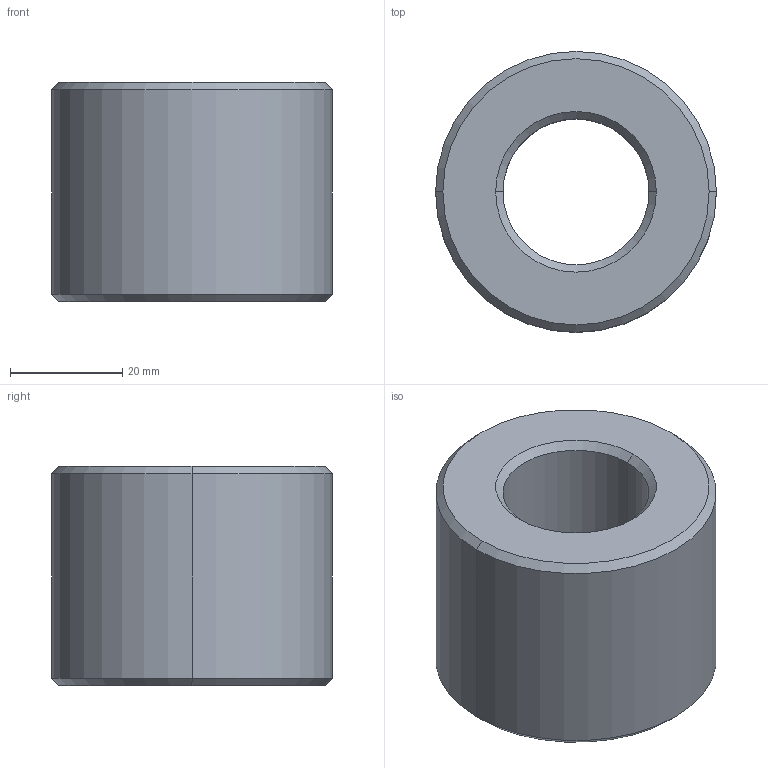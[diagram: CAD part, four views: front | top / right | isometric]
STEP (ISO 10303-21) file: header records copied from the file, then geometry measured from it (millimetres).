
FILE_DESCRIPTION (( 'STEP AP203' ), '1' );
FILE_NAME ('L1339.L26-05.step', '2024-10-24T14:05:57', ( '' ), ( '' ), 'SwSTEP 2.0', 'SolidWorks 2019', '' );
FILE_SCHEMA (( 'CONFIG_CONTROL_DESIGN' ));
Length unit declared in the file: millimetre
Products named in the file (1): L1339.L26-05
Bounding box: 50 x 50 x 39 mm (x, y, z)
Volume: 55466.6 mm3; surface area: 11813.2 mm2
Topology: 1 solids, 1 shells, 14 faces, 28 edges, 16 vertices
Faces by surface type: cone 8, cylinder 4, plane 2
Entity records: 445 total; most frequent: DIRECTION 74, CARTESIAN_POINT 59, ORIENTED_EDGE 56, AXIS2_PLACEMENT_3D 31, EDGE_CURVE 28, CIRCLE 16, VERTEX_POINT 16, EDGE_LOOP 16
